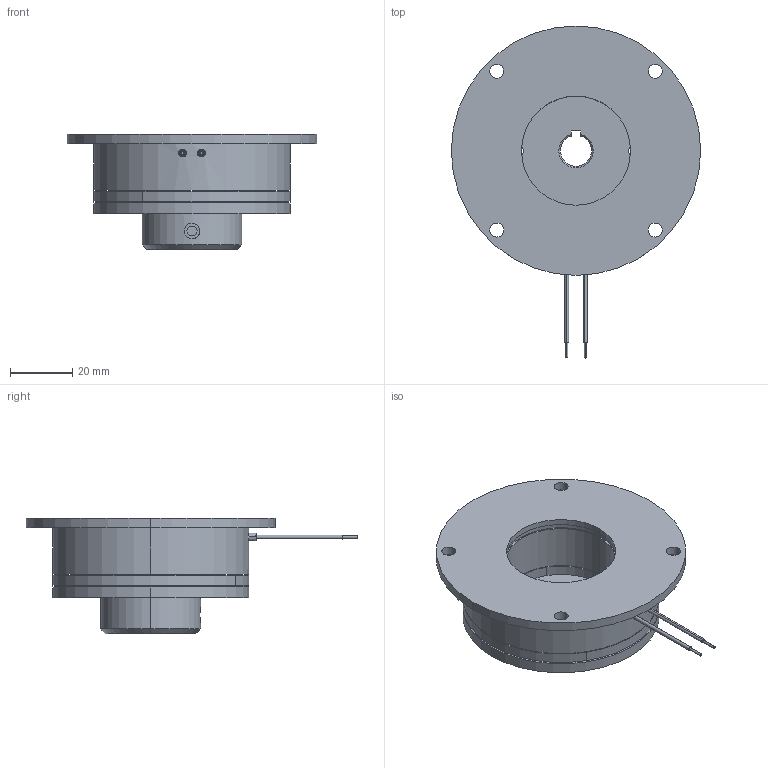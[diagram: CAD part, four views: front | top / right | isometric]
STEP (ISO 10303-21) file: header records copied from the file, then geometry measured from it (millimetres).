
FILE_DESCRIPTION (( 'STEP AP214' ), '1' );
FILE_NAME ('dr_bk_0602-130_mu.STEP', '2021-11-10T10:04:09', ( '' ), ( '' ), 'SwSTEP 2.0', 'SolidWorks 2019', '' );
FILE_SCHEMA (( 'AUTOMOTIVE_DESIGN' ));
Length unit declared in the file: millimetre
Products named in the file (11): 10068691_000; 10068794_000; 10068788_000; 10068789_000_Einbaul„nge 2,7mm; 10068792_000; 10068793_000_M6x10 ISO 4026; 10068786_000; dr_bk_0602-130_mu; 10068787_000; 10068785_000; 10068789_000_Nietl„nge 2,25mm
Assembly tree (19 placements, depth 4):
  dr_bk_0602-130_mu
    10068691_000
    10068792_000
      10068794_000
      10068787_000
        10068786_000
        10068785_000
        10068789_000_Nietl„nge 2,25mm  x3
        10068788_000  x3
      10068788_000  x3
      10068789_000_Einbaul„nge 2,7mm  x3
      10068793_000_M6x10 ISO 4026
Bounding box: 80 x 106.5 x 37 mm (x, y, z)
Volume: 69621.1 mm3; surface area: 32835.6 mm2
Topology: 19 solids, 19 shells, 322 faces, 712 edges, 434 vertices
Faces by surface type: cylinder 157, cone 82, plane 51, torus 20, sphere 12
Entity records: 7793 total; most frequent: CARTESIAN_POINT 1306, DIRECTION 1238, ORIENTED_EDGE 976, AXIS2_PLACEMENT_3D 526, EDGE_CURVE 488, VERTEX_POINT 306, EDGE_LOOP 290, CIRCLE 286
